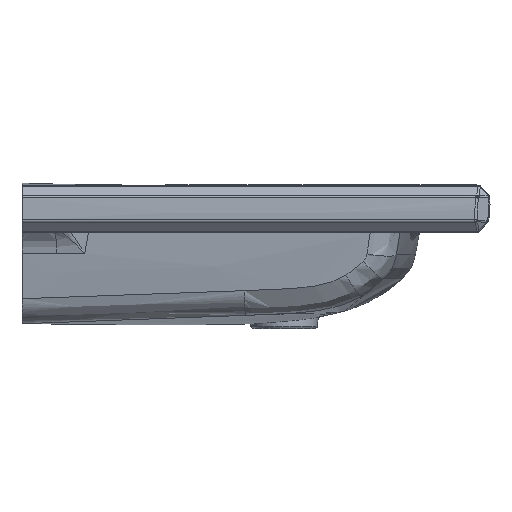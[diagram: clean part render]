
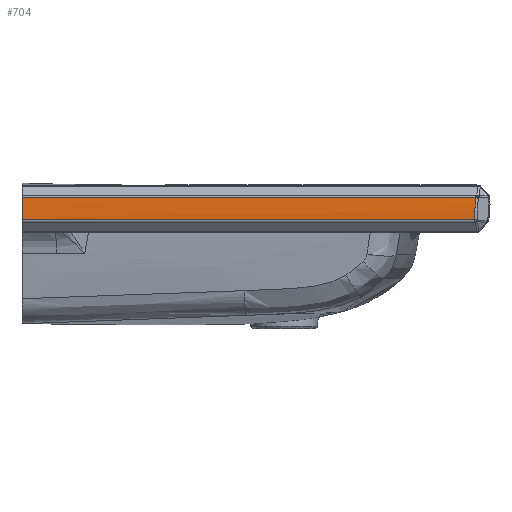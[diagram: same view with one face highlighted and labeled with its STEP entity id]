
A CAD part, left-side view. The second image highlights one B-rep face of the part: STEP entity #704.
In plain terms, the highlighted face is a extrusion surface.
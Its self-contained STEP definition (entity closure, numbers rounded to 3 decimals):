
#370=SURFACE_OF_LINEAR_EXTRUSION('',#3140,#517);
#431=LINE('',#225495,#515);
#432=LINE('',#225499,#516);
#515=VECTOR('',#3863,1.);
#516=VECTOR('',#3868,1.);
#517=VECTOR('',#3869,1.);
#704=ADVANCED_FACE('',(#935),#370,.T.);
#935=FACE_OUTER_BOUND('',#1143,.T.);
#1143=EDGE_LOOP('',(#1835,#1836,#1837,#1838));
#1835=ORIENTED_EDGE('',*,*,#2835,.T.);
#1836=ORIENTED_EDGE('',*,*,#2711,.T.);
#1837=ORIENTED_EDGE('',*,*,#2837,.F.);
#1838=ORIENTED_EDGE('',*,*,#2838,.F.);
#2332=VERTEX_POINT('',#22468);
#2333=VERTEX_POINT('',#22472);
#2401=VERTEX_POINT('',#225496);
#2402=VERTEX_POINT('',#225500);
#2711=EDGE_CURVE('',#2332,#2333,#3075,.T.);
#2835=EDGE_CURVE('',#2401,#2332,#431,.T.);
#2837=EDGE_CURVE('',#2402,#2333,#432,.T.);
#2838=EDGE_CURVE('',#2401,#2402,#3139,.T.);
#3075=B_SPLINE_CURVE_WITH_KNOTS('',3,(#22473,#22474,#22475,#22476),
 .UNSPECIFIED.,.F.,.F.,(4,4),(0.,1.),.UNSPECIFIED.);
#3139=B_SPLINE_CURVE_WITH_KNOTS('',3,(#225501,#225502,#225503,#225504),
 .UNSPECIFIED.,.F.,.F.,(4,4),(0.,1.),.UNSPECIFIED.);
#3140=B_SPLINE_CURVE_WITH_KNOTS('',3,(#225505,#225506,#225507,#225508),
 .UNSPECIFIED.,.F.,.F.,(4,4),(0.,1.),.UNSPECIFIED.);
#3863=DIRECTION('',(0.,-1.,0.));
#3868=DIRECTION('',(0.,-1.,0.));
#3869=DIRECTION('',(0.,1.,0.));
#22468=CARTESIAN_POINT('',(-599.438,-522.422,-40.29));
#22472=CARTESIAN_POINT('',(-599.453,-523.825,-14.71));
#22473=CARTESIAN_POINT('',(-599.438,-522.422,-40.29));
#22474=CARTESIAN_POINT('',(-600.185,-522.166,-31.748));
#22475=CARTESIAN_POINT('',(-600.195,-522.634,-23.189));
#22476=CARTESIAN_POINT('',(-599.453,-523.825,-14.71));
#225495=CARTESIAN_POINT('',(-599.438,0.,-40.29));
#225496=CARTESIAN_POINT('',(-599.438,0.,-40.29));
#225499=CARTESIAN_POINT('',(-599.453,-524.182,-14.71));
#225500=CARTESIAN_POINT('',(-599.453,0.,-14.71));
#225501=CARTESIAN_POINT('',(-599.438,0.,-40.29));
#225502=CARTESIAN_POINT('',(-600.182,0.,-31.779));
#225503=CARTESIAN_POINT('',(-600.198,0.,-23.22));
#225504=CARTESIAN_POINT('',(-599.453,0.,-14.71));
#225505=CARTESIAN_POINT('',(-599.438,-564.,-40.29));
#225506=CARTESIAN_POINT('',(-600.182,-564.,-31.779));
#225507=CARTESIAN_POINT('',(-600.198,-564.,-23.22));
#225508=CARTESIAN_POINT('',(-599.453,-564.,-14.71));
